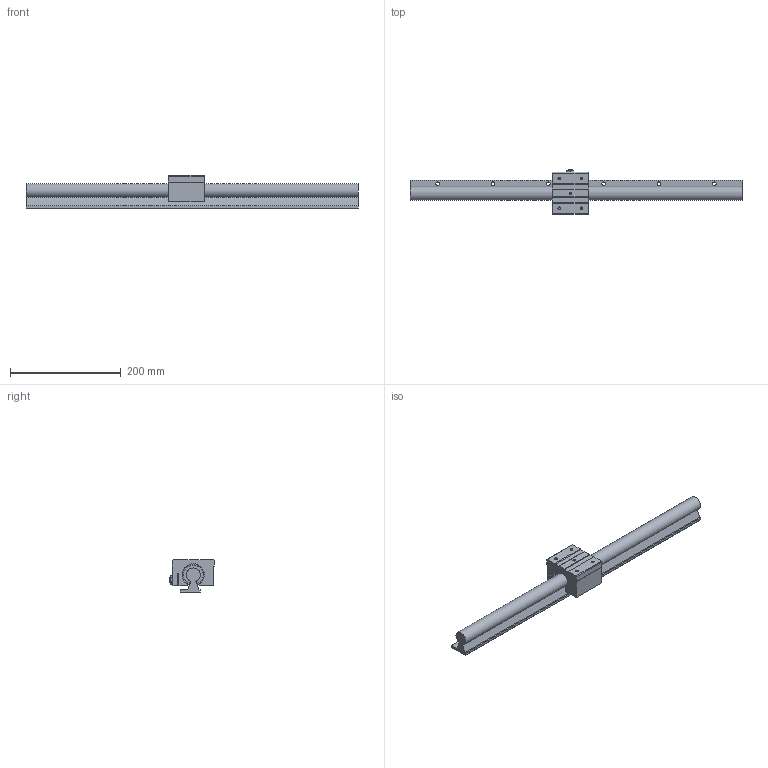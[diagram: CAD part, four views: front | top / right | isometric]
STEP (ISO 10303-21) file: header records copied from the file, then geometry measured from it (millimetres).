
FILE_DESCRIPTION((''),'2;1');
FILE_NAME('D:\製品 (図面)\カタログ用3D\リニアガイド関連\STEP形式\GTA(W)\GTA25.stp','2010-06-08T09:17:11',('Tsuchiya'),(''),'Autodesk Inventor 10','Autodesk Inventor 10','');
FILE_SCHEMA(('AUTOMOTIVE_DESIGN { 1 0 10303 214 1 1 1 1 }'));
Length unit declared in the file: millimetre
Products named in the file (3): GTA25; GTA251; GTA252
Assembly tree (2 placements, depth 2):
  GTA25
    GTA251
    GTA252
Bounding box: 600 x 81 x 60 mm (x, y, z)
Volume: 714832.4 mm3; surface area: 134850.1 mm2
Topology: 2 solids, 2 shells, 192 faces, 499 edges, 322 vertices
Faces by surface type: plane 114, cylinder 39, cone 21, bspline 10, torus 8
Full cylindrical faces by diameter (mm): 6.5 x6, 8 x2, 10 x6, 10.4 x6
Entity records: 5574 total; most frequent: CARTESIAN_POINT 1264, ORIENTED_EDGE 864, DIRECTION 839, EDGE_CURVE 432, VERTEX_POINT 299, AXIS2_PLACEMENT_3D 296, EDGE_LOOP 265, VECTOR 247
